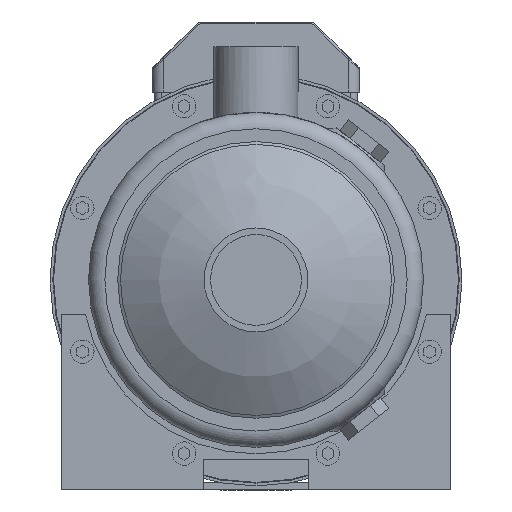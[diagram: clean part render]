
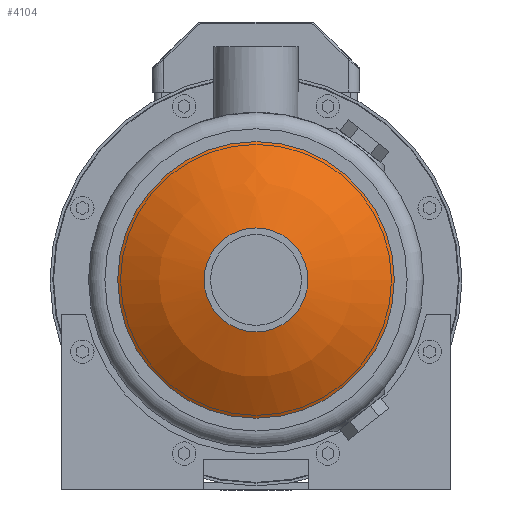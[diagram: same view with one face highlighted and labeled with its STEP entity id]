
A CAD part, left-side view. The second image highlights one B-rep face of the part: STEP entity #4104.
In plain terms, the highlighted spherical face has radius 100 mm.
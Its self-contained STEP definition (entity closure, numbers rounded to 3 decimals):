
#63=SPHERICAL_SURFACE('',#5494,100.);
#950=ORIENTED_EDGE('',*,*,#2059,.T.);
#951=ORIENTED_EDGE('',*,*,#2058,.F.);
#2058=EDGE_CURVE('',#2617,#2617,#3000,.T.);
#2059=EDGE_CURVE('',#2618,#2618,#3001,.T.);
#2617=VERTEX_POINT('',#7339);
#2618=VERTEX_POINT('',#7342);
#3000=CIRCLE('',#5493,22.25);
#3001=CIRCLE('',#5495,59.25);
#3186=EDGE_LOOP('',(#950));
#3187=EDGE_LOOP('',(#951));
#3571=FACE_BOUND('',#3186,.T.);
#3572=FACE_BOUND('',#3187,.T.);
#4104=ADVANCED_FACE('',(#3571,#3572),#63,.T.);
#5493=AXIS2_PLACEMENT_3D('',#7338,#5996,#5997);
#5494=AXIS2_PLACEMENT_3D('',#7340,#5998,#5999);
#5495=AXIS2_PLACEMENT_3D('',#7341,#6000,#6001);
#5996=DIRECTION('',(-1.,0.,0.));
#5997=DIRECTION('',(0.,0.,1.));
#5998=DIRECTION('',(-1.,0.,0.));
#5999=DIRECTION('',(0.,0.,1.));
#6000=DIRECTION('',(-1.,0.,0.));
#6001=DIRECTION('',(0.,0.,1.));
#7338=CARTESIAN_POINT('',(-115.293,0.,0.));
#7339=CARTESIAN_POINT('',(-115.293,0.,22.25));
#7340=CARTESIAN_POINT('',(-17.8,0.,0.));
#7341=CARTESIAN_POINT('',(-98.357,0.,0.));
#7342=CARTESIAN_POINT('',(-98.357,0.,59.25));
